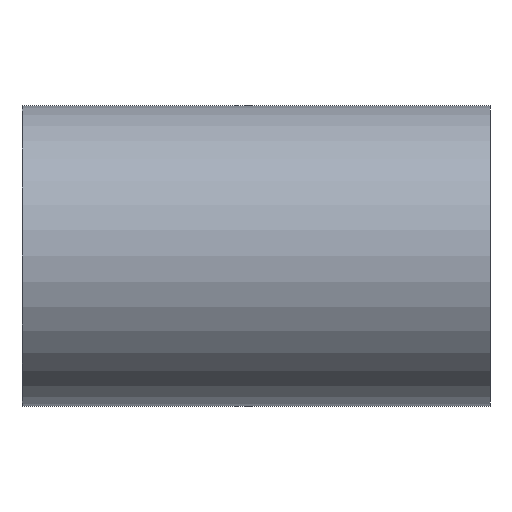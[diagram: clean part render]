
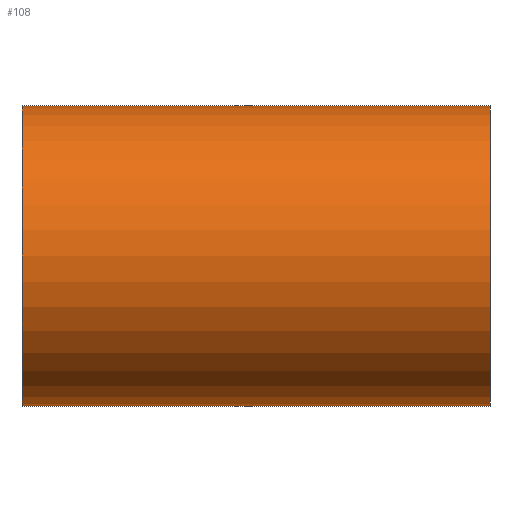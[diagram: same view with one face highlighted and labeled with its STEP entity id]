
A CAD part, front view. The second image highlights one B-rep face of the part: STEP entity #108.
In plain terms, the highlighted cylindrical face has radius 360 mm (diameter 720 mm), a partial arc.
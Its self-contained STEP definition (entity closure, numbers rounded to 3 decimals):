
#108=ADVANCED_FACE('',(#212),#213,.T.);
#212=FACE_OUTER_BOUND('',#335,.T.);
#213=CYLINDRICAL_SURFACE('',#336,360.0);
#335=EDGE_LOOP('',(#587,#588,#589,#590));
#336=AXIS2_PLACEMENT_3D('',#591,#592,#593);
#587=ORIENTED_EDGE('',*,*,#659,.T.);
#588=ORIENTED_EDGE('',*,*,#768,.F.);
#589=ORIENTED_EDGE('',*,*,#661,.T.);
#590=ORIENTED_EDGE('',*,*,#769,.F.);
#591=CARTESIAN_POINT('',(0.0,0.0,0.0));
#592=DIRECTION('',(1.0,0.0,0.0));
#593=DIRECTION('',(0.0,0.0,-1.0));
#659=EDGE_CURVE('',#773,#774,#775,.T.);
#661=EDGE_CURVE('',#778,#776,#779,.T.);
#768=EDGE_CURVE('',#778,#774,#938,.T.);
#769=EDGE_CURVE('',#773,#776,#939,.T.);
#773=VERTEX_POINT('',#943);
#774=VERTEX_POINT('',#944);
#775=LINE('',#945,#946);
#776=VERTEX_POINT('',#947);
#778=VERTEX_POINT('',#949);
#779=LINE('',#950,#951);
#938=CIRCLE('',#1136,360.0);
#939=CIRCLE('',#1137,360.0);
#943=CARTESIAN_POINT('',(-560.0,0.0,-360.0));
#944=CARTESIAN_POINT('',(560.0,0.0,-360.0));
#945=CARTESIAN_POINT('',(0.0,0.,-360.0));
#946=VECTOR('',#1140,1.0);
#947=CARTESIAN_POINT('',(-560.0,0.,360.0));
#949=CARTESIAN_POINT('',(560.0,0.,360.0));
#950=CARTESIAN_POINT('',(0.0,0.,360.0));
#951=VECTOR('',#1144,1.0);
#1136=AXIS2_PLACEMENT_3D('',#1330,#1331,#1332);
#1137=AXIS2_PLACEMENT_3D('',#1333,#1334,#1335);
#1140=DIRECTION('',(1.0,0.0,0.0));
#1144=DIRECTION('',(-1.0,-0.0,-0.0));
#1330=CARTESIAN_POINT('',(560.0,0.0,0.0));
#1331=DIRECTION('',(1.0,0.0,0.0));
#1332=DIRECTION('',(0.0,0.0,-1.0));
#1333=CARTESIAN_POINT('',(-560.0,0.0,0.0));
#1334=DIRECTION('',(-1.0,0.0,0.0));
#1335=DIRECTION('',(0.0,0.0,-1.0));
